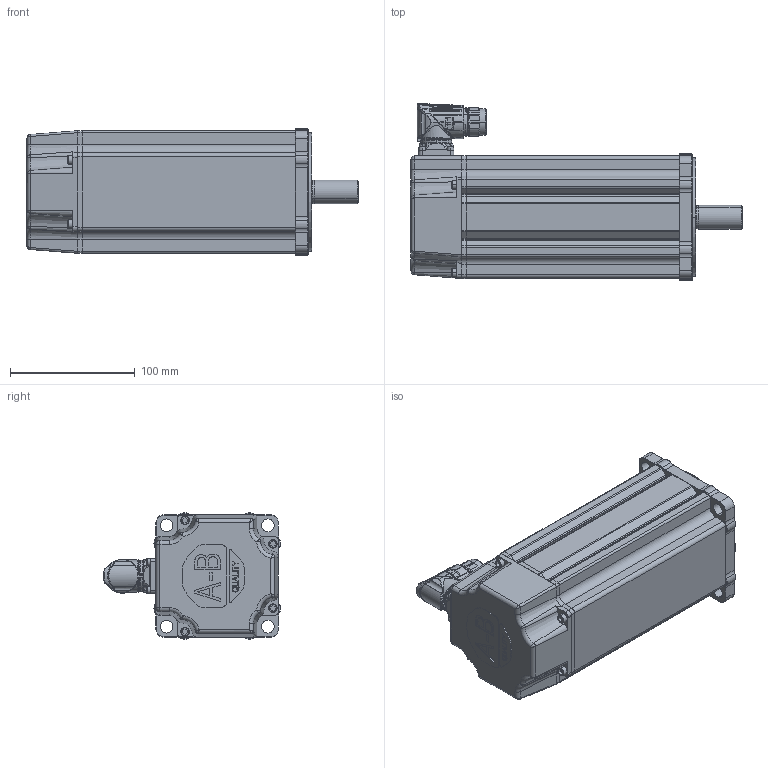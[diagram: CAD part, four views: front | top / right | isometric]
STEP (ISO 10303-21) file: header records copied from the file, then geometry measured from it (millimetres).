
FILE_DESCRIPTION (( 'STEP AP214' ), '1' );
FILE_NAME ('Rockwell Automation-$PARTNUMBER.STEP', '2014-04-30T09:17:04', ( 'Windows User' ), ( '' ), 'SwSTEP 2.0', 'SolidWorks 2014', '' );
FILE_SCHEMA (( 'AUTOMOTIVE_DESIGN' ));
Length unit declared in the file: inch
Products named in the file (9): Rockwell Automation-$PARTNUMBER_Rockwell Automation-VPL-x1153x-xKx4xx_91290A115_ANY; Rockwell Automation-$PARTNUMBER_Rockwell Automation-VPL-x1153x-xKx4xx_M23_Connector; Rockwell Automation-$PARTNUMBER_Rockwell Automation-VPL-x1153x-xKx4xx_10000014326-M23_ASM; Rockwell Automation-$PARTNUMBER_Rockwell Automation-VPL-x1153x-xKx4xx_10000014326-1; Rockwell Automation-$PARTNUMBER_Rockwell Automation-VPL-x1153x-xKx4xx_10000014325-1; Rockwell Automation-$PARTNUMBER_Rockwell Automation-VPL-x1153x-xKx4xx_10000540833; Rockwell Automation-$PARTNUMBER_Rockwell Automation-VPL-x1153x-xKx4xx_VPL-115-Shaft_1153-SHAFT-KEYLESS-BRAKE; Rockwell Automation-$PARTNUMBER_Rockwell Automation-VPL-x1153x-xKx4xx_VPL-115-Body_1153-Brake; Rockwell Automation-$PARTNUMBER
Assembly tree (11 placements, depth 4):
  Rockwell Automation-$PARTNUMBER
    Rockwell Automation-$PARTNUMBER_Rockwell Automation-VPL-x1153x-xKx4xx_VPL-115-Body_1153-Brake
    Rockwell Automation-$PARTNUMBER_Rockwell Automation-VPL-x1153x-xKx4xx_VPL-115-Shaft_1153-SHAFT-KEYLESS-BRAKE
    Rockwell Automation-$PARTNUMBER_Rockwell Automation-VPL-x1153x-xKx4xx_M23_Connector
      Rockwell Automation-$PARTNUMBER_Rockwell Automation-VPL-x1153x-xKx4xx_10000540833
      Rockwell Automation-$PARTNUMBER_Rockwell Automation-VPL-x1153x-xKx4xx_10000014325-1
      Rockwell Automation-$PARTNUMBER_Rockwell Automation-VPL-x1153x-xKx4xx_10000014326-M23_ASM
        Rockwell Automation-$PARTNUMBER_Rockwell Automation-VPL-x1153x-xKx4xx_10000014326-1
    Rockwell Automation-$PARTNUMBER_Rockwell Automation-VPL-x1153x-xKx4xx_91290A115_ANY  x4
Bounding box: 266.32 x 142 x 101.55 mm (x, y, z)
Volume: 927013.3 mm3; surface area: 235073 mm2
Topology: 10 solids, 16 shells, 2601 faces, 7217 edges, 4668 vertices
Faces by surface type: cylinder 830, plane 773, bspline 724, cone 254, torus 18, sphere 2
Entity records: 155082 total; most frequent: CARTESIAN_POINT 85390, ORIENTED_EDGE 13979, DIRECTION 8382, EDGE_CURVE 6996, VERTEX_POINT 4566, B_SPLINE_CURVE_WITH_KNOTS 3366, AXIS2_PLACEMENT_3D 3067, EDGE_LOOP 2662
